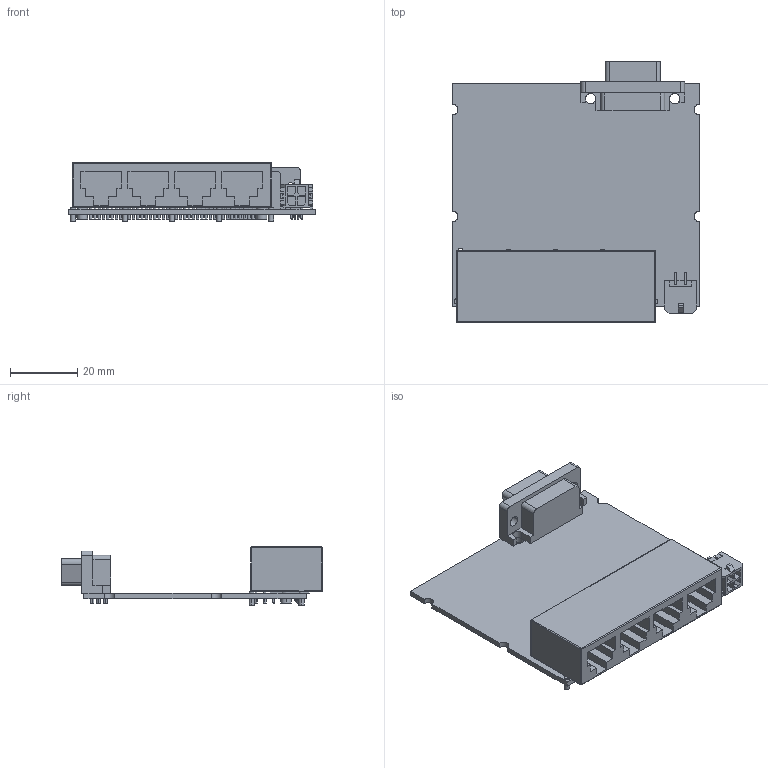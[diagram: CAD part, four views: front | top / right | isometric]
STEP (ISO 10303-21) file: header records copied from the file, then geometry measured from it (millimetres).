
FILE_DESCRIPTION((''),'2;1');
FILE_NAME('CD_NI_9237E','2010-02-04T',('scarrasc'),(''),'PRO/ENGINEER BY PARAMETRIC TECHNOLOGY CORPORATION, 2006080','PRO/ENGINEER BY PARAMETRIC TECHNOLOGY CORPORATION, 2006080','');
FILE_SCHEMA(('CONFIG_CONTROL_DESIGN'));
Length unit declared in the file: inch
Products named in the file (1): CD_NI_9237E
Bounding box: 73.38 x 77.5 x 17.35 mm (x, y, z)
Volume: 23553.7 mm3; surface area: 19234.7 mm2
Topology: 1 solids, 1 shells, 671 faces, 1720 edges, 1114 vertices
Faces by surface type: plane 397, cylinder 262, sphere 8, cone 2, torus 2
Entity records: 20672 total; most frequent: CARTESIAN_POINT 3629, DIRECTION 3584, ORIENTED_EDGE 3436, EDGE_CURVE 1718, AXIS2_PLACEMENT_3D 1205, VECTOR 1174, LINE 1174, VERTEX_POINT 1114
